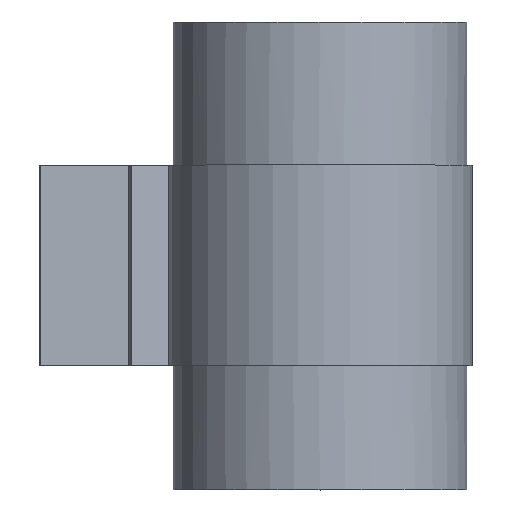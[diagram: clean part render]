
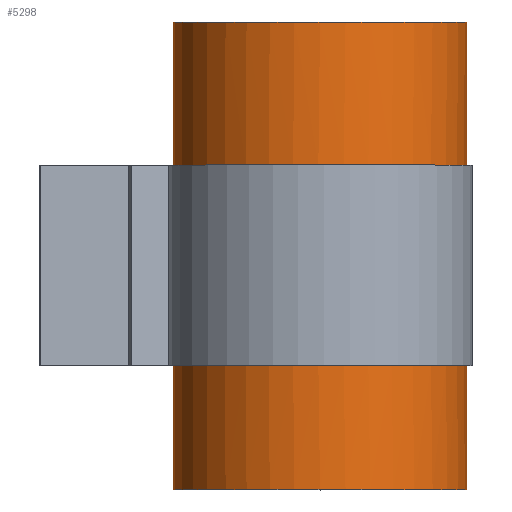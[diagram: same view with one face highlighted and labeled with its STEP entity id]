
A CAD part, top view. The second image highlights one B-rep face of the part: STEP entity #5298.
In plain terms, the highlighted cylindrical face has radius 11 mm (diameter 22 mm), a full revolution.
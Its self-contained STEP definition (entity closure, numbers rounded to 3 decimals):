
#442=LINE('',#8391,#1009);
#443=LINE('',#8392,#1010);
#1009=VECTOR('',#6715,1000.);
#1010=VECTOR('',#6716,1000.);
#2302=ORIENTED_EDGE('',*,*,#3455,.T.);
#2303=ORIENTED_EDGE('',*,*,#3456,.F.);
#2304=ORIENTED_EDGE('',*,*,#3457,.F.);
#2305=ORIENTED_EDGE('',*,*,#3406,.T.);
#2306=ORIENTED_EDGE('',*,*,#3458,.T.);
#2307=ORIENTED_EDGE('',*,*,#3447,.F.);
#3406=EDGE_CURVE('',#4041,#4040,#4306,.T.);
#3447=EDGE_CURVE('',#4078,#4079,#4329,.T.);
#3455=EDGE_CURVE('',#4086,#4086,#4332,.T.);
#3456=EDGE_CURVE('',#4087,#4087,#4333,.T.);
#3457=EDGE_CURVE('',#4041,#4078,#442,.T.);
#3458=EDGE_CURVE('',#4040,#4079,#443,.T.);
#4040=VERTEX_POINT('',#8289);
#4041=VERTEX_POINT('',#8291);
#4078=VERTEX_POINT('',#8369);
#4079=VERTEX_POINT('',#8371);
#4086=VERTEX_POINT('',#8388);
#4087=VERTEX_POINT('',#8390);
#4306=CIRCLE('',#5653,11.);
#4329=CIRCLE('',#5677,11.);
#4332=CIRCLE('',#5682,11.);
#4333=CIRCLE('',#5683,11.);
#4601=EDGE_LOOP('',(#2302));
#4602=EDGE_LOOP('',(#2303));
#4603=EDGE_LOOP('',(#2304,#2305,#2306,#2307));
#4942=FACE_BOUND('',#4601,.T.);
#4943=FACE_BOUND('',#4602,.T.);
#4944=FACE_BOUND('',#4603,.T.);
#5100=CYLINDRICAL_SURFACE('',#5681,11.);
#5298=ADVANCED_FACE('',(#4942,#4943,#4944),#5100,.T.);
#5653=AXIS2_PLACEMENT_3D('',#8290,#6630,#6631);
#5677=AXIS2_PLACEMENT_3D('',#8370,#6696,#6697);
#5681=AXIS2_PLACEMENT_3D('',#8386,#6709,#6710);
#5682=AXIS2_PLACEMENT_3D('',#8387,#6711,#6712);
#5683=AXIS2_PLACEMENT_3D('',#8389,#6713,#6714);
#6630=DIRECTION('',(0.,-1.,0.));
#6631=DIRECTION('',(0.,0.,-1.));
#6696=DIRECTION('',(0.,-1.,0.));
#6697=DIRECTION('',(0.,0.,-1.));
#6709=DIRECTION('',(0.,-1.,0.));
#6710=DIRECTION('',(0.,0.,1.));
#6711=DIRECTION('',(0.,1.,0.));
#6712=DIRECTION('',(-1.,0.,0.));
#6713=DIRECTION('',(0.,1.,0.));
#6714=DIRECTION('',(-1.,0.,0.));
#6715=DIRECTION('',(0.,1.,0.));
#6716=DIRECTION('',(0.,1.,0.));
#8289=CARTESIAN_POINT('',(-4.688,6.3,10.049));
#8290=CARTESIAN_POINT('',(0.,6.3,20.));
#8291=CARTESIAN_POINT('',(7.311,6.3,11.781));
#8369=CARTESIAN_POINT('',(7.311,21.3,11.781));
#8370=CARTESIAN_POINT('',(0.,21.3,20.));
#8371=CARTESIAN_POINT('',(-4.688,21.3,10.049));
#8386=CARTESIAN_POINT('',(0.,32.,20.));
#8387=CARTESIAN_POINT('',(0.,-3.,20.));
#8388=CARTESIAN_POINT('',(-11.,-3.,20.));
#8389=CARTESIAN_POINT('',(0.,32.,20.));
#8390=CARTESIAN_POINT('',(-11.,32.,20.));
#8391=CARTESIAN_POINT('',(7.311,6.3,11.781));
#8392=CARTESIAN_POINT('',(-4.688,6.3,10.049));
